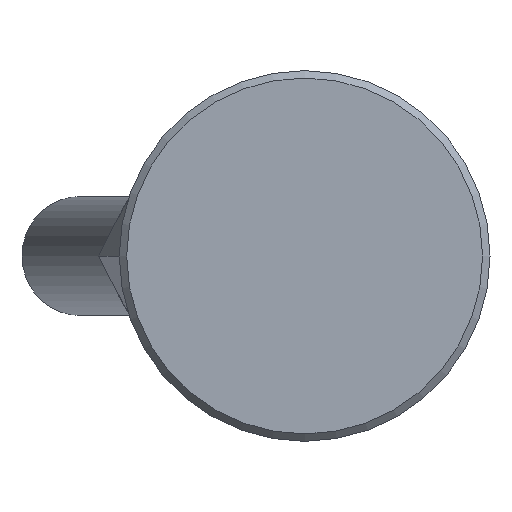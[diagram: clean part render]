
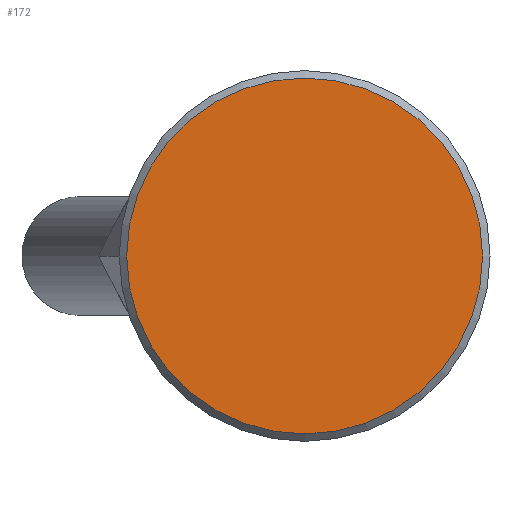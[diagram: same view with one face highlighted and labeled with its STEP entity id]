
A CAD part, front view. The second image highlights one B-rep face of the part: STEP entity #172.
In plain terms, the highlighted planar face has unit normal (0, -1, 0).
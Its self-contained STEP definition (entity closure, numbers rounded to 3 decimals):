
#172 = ADVANCED_FACE( '', ( #341 ), #342, .F. );
#341 = FACE_OUTER_BOUND( '', #537, .T. );
#342 = PLANE( '', #538 );
#537 = EDGE_LOOP( '', ( #840 ) );
#538 = AXIS2_PLACEMENT_3D( '', #841, #842, #843 );
#840 = ORIENTED_EDGE( '', *, *, #1210, .T. );
#841 = CARTESIAN_POINT( '', ( 12., 0., 0. ) );
#842 = DIRECTION( '', ( 0., 1., 0. ) );
#843 = DIRECTION( '', ( 0., 0., 1. ) );
#1210 = EDGE_CURVE( '', #1417, #1417, #1418, .T. );
#1417 = VERTEX_POINT( '', #1846 );
#1418 = CIRCLE( '', #1847, 12. );
#1846 = CARTESIAN_POINT( '', ( 0., 0., -12. ) );
#1847 = AXIS2_PLACEMENT_3D( '', #2109, #2110, #2111 );
#2109 = CARTESIAN_POINT( '', ( 0., 0., 0. ) );
#2110 = DIRECTION( '', ( 0., -1., 0. ) );
#2111 = DIRECTION( '', ( 0., 0., -1. ) );
